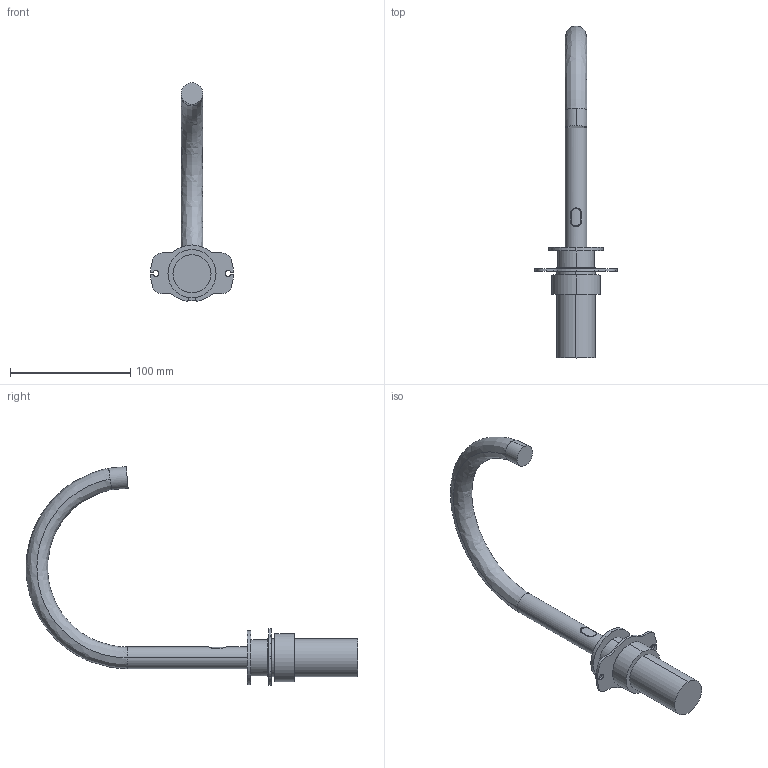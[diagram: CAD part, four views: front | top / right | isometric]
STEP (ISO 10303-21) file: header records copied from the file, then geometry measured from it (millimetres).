
FILE_DESCRIPTION (( 'STEP AP214' ), '1' );
FILE_NAME ('TSL.892 2.STEP', '2025-06-26T09:20:13', ( '' ), ( '' ), 'SwSTEP 2.0', 'SolidWorks 2022', '' );
FILE_SCHEMA (( 'AUTOMOTIVE_DESIGN' ));
Length unit declared in the file: millimetre
Products named in the file (1): TSL.892 2
Bounding box: 68.97 x 275.99 x 181.91 mm (x, y, z)
Volume: 169999.5 mm3; surface area: 36826.6 mm2
Topology: 1 solids, 1 shells, 93 faces, 254 edges, 169 vertices
Faces by surface type: cylinder 64, plane 25, bspline 4
Entity records: 4709 total; most frequent: CARTESIAN_POINT 2149, DIRECTION 521, ORIENTED_EDGE 508, EDGE_CURVE 254, AXIS2_PLACEMENT_3D 204, VERTEX_POINT 169, CIRCLE 114, LINE 113
